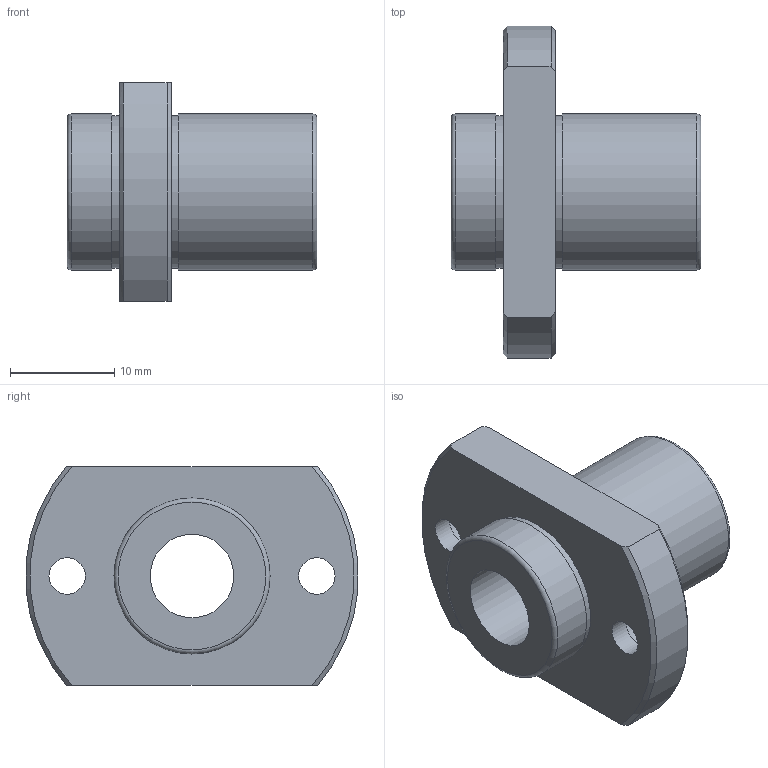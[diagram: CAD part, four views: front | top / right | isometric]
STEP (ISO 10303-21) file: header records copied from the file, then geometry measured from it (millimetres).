
FILE_DESCRIPTION(('STEP AP203'),'1');
FILE_NAME('//192.168.1.1/share/s-4 技術開発/s-4-4_CAD/s-4-4-3_見直し済み/002 修正済み/NFIO-V/NFIO-V_TOP/NFIO8.step','2022-03-07T02:12:00',(' '),(' '),'Spatial InterOp 3D',' ',' ');
FILE_SCHEMA(('CONFIG_CONTROL_DESIGN'));
Length unit declared in the file: millimetre
Products named in the file (1): 1
Bounding box: 24 x 31.9 x 21 mm (x, y, z)
Volume: 5019.2 mm3; surface area: 3216.8 mm2
Topology: 1 solids, 1 shells, 27 faces, 61 edges, 42 vertices
Faces by surface type: cylinder 11, plane 10, cone 4, torus 2
Full cylindrical faces by diameter (mm): 3.5 x2, 6 x2, 8 x1, 14.7 x2, 15 x2
Entity records: 730 total; most frequent: CARTESIAN_POINT 132, DIRECTION 120, ORIENTED_EDGE 88, AXIS2_PLACEMENT_3D 56, EDGE_LOOP 50, EDGE_CURVE 44, FACE_OUTER_BOUND 38, VERTEX_POINT 36
